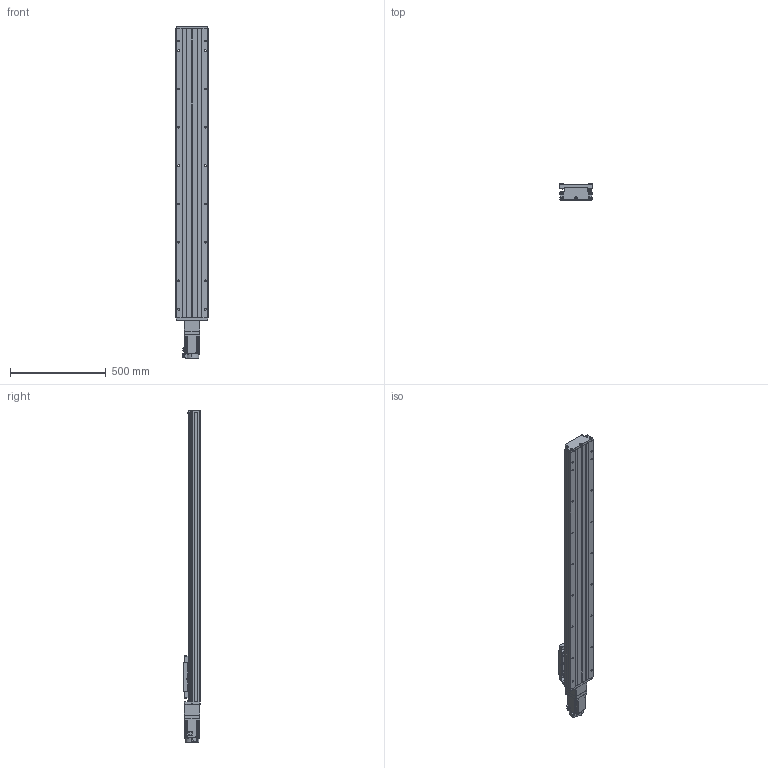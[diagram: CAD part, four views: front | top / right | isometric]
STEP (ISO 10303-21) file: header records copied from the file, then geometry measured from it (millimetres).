
FILE_DESCRIPTION (( 'STEP AP203' ), '1' );
FILE_NAME ('GTH17-1250-BC-M75-C4.step', '2023-06-30T11:20:31', ( '微软用户' ), ( '微软中国' ), 'SwSTEP 2.0', 'SolidWorks 2020', '' );
FILE_SCHEMA (( 'CONFIG_CONTROL_DESIGN' ));
Length unit declared in the file: millimetre
Products named in the file (20): GTH17-006-2_M75; GTH17-004; GBT77-2000 M3×3; GTH17-013; GTH17-005; GBT 70.1-M6¡Á20_M6¡Á20; GTH17-027-1; GB1155-6X6; GTH17-031; HG-KN73J-S100; CTHA60-017; GBT 70.2-M3¡Á5_M3¡Á6; GTH17-1250-BC-M75-C4; EE_SX911P_R; す晦芛蹟隊 M3℅5; GTH17-001_1250; CTHA60-016; GBT 70.3-M3℅8; GTH17-002_GTH17-002; GBT 70.1-M3℅5
Assembly tree (57 placements, depth 2):
  GTH17-1250-BC-M75-C4
    GTH17-001_1250
    GTH17-002_GTH17-002
    GTH17-004
    GTH17-005
    GB1155-6X6  x2
    CTHA60-017  x3
    EE_SX911P_R  x3
    CTHA60-016  x2
    GBT 70.1-M3℅5  x6
    GBT77-2000 M3×3  x6
    GBT 70.1-M6¡Á20_M6¡Á20  x10
    GTH17-031
    GBT 70.2-M3¡Á5_M3¡Á6  x8
    す晦芛蹟隊 M3℅5  x6
    GBT 70.3-M3℅8  x2
    GTH17-006-2_M75
    GTH17-013
    GTH17-027-1
    HG-KN73J-S100
Bounding box: 171 x 87 x 1731.2 mm (x, y, z)
Volume: 12973884.6 mm3; surface area: 1607856.8 mm2
Topology: 60 solids, 60 shells, 2444 faces, 5845 edges, 3627 vertices
Faces by surface type: plane 1311, cylinder 686, cone 287, torus 120, sphere 20, bspline 20
Entity records: 46069 total; most frequent: CARTESIAN_POINT 10577, DIRECTION 6717, ORIENTED_EDGE 6606, EDGE_CURVE 3303, AXIS2_PLACEMENT_3D 2301, VECTOR 2115, LINE 2115, VERTEX_POINT 2095
